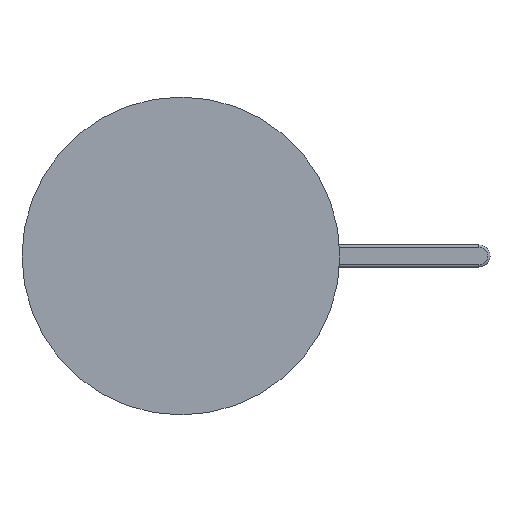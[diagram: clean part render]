
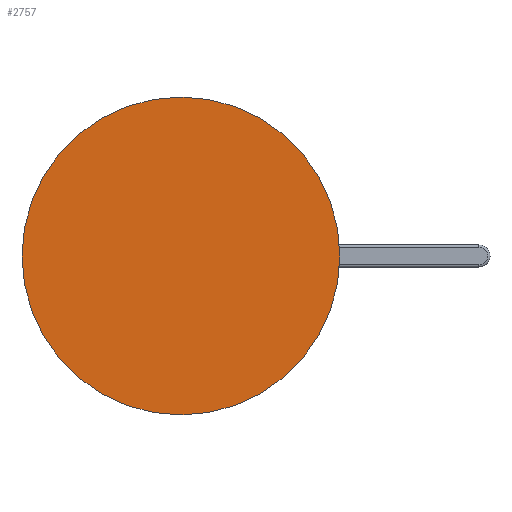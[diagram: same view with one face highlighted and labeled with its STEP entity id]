
A CAD part, left-side view. The second image highlights one B-rep face of the part: STEP entity #2757.
In plain terms, the highlighted planar face has unit normal (-1, 0, 0).
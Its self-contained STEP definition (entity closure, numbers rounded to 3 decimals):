
#455=CIRCLE('',#3214,36.);
#640=FACE_OUTER_BOUND('',#826,.T.);
#826=EDGE_LOOP('',(#2499));
#1287=VERTEX_POINT('',#7630);
#1693=EDGE_CURVE('',#1287,#1287,#455,.T.);
#2499=ORIENTED_EDGE('',*,*,#1693,.T.);
#2578=PLANE('',#3213);
#2757=ADVANCED_FACE('',(#640),#2578,.T.);
#3213=AXIS2_PLACEMENT_3D('',#7629,#4084,#4085);
#3214=AXIS2_PLACEMENT_3D('',#7631,#4086,#4087);
#4084=DIRECTION('center_axis',(-1.,0.,0.));
#4085=DIRECTION('ref_axis',(0.,0.,1.));
#4086=DIRECTION('center_axis',(-1.,0.,0.));
#4087=DIRECTION('ref_axis',(0.,-1.,0.));
#7629=CARTESIAN_POINT('Origin',(53.8,-4.75,0.));
#7630=CARTESIAN_POINT('',(53.8,-40.75,0.));
#7631=CARTESIAN_POINT('Origin',(53.8,-4.75,0.));
